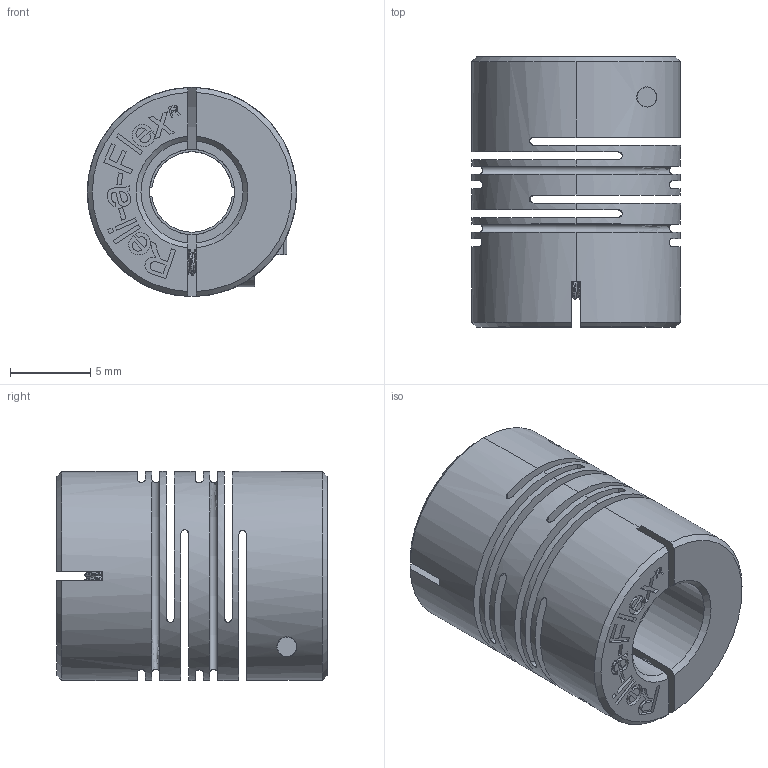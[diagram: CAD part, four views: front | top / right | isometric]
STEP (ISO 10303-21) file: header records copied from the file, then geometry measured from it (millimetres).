
FILE_DESCRIPTION (( 'STEP AP203' ), '1' );
FILE_NAME ('RCSA13C-0.250-5.STEP', '2012-04-26T13:32:12', ( 'render' ), ( '' ), 'SwSTEP 2.0', 'SolidWorks 2011', '' );
FILE_SCHEMA (( 'CONFIG_CONTROL_DESIGN' ));
Length unit declared in the file: millimetre
Products named in the file (1): RCSA13C-0.250-5
Bounding box: 13 x 16.8 x 13 mm (x, y, z)
Volume: 1413.3 mm3; surface area: 2781.1 mm2
Topology: 3 solids, 3 shells, 335 faces, 909 edges, 604 vertices
Faces by surface type: plane 158, cylinder 145, cone 18, torus 8, bspline 6
Entity records: 17707 total; most frequent: CARTESIAN_POINT 9444, ORIENTED_EDGE 1818, DIRECTION 1596, EDGE_CURVE 909, VERTEX_POINT 604, AXIS2_PLACEMENT_3D 556, LINE 484, VECTOR 484
